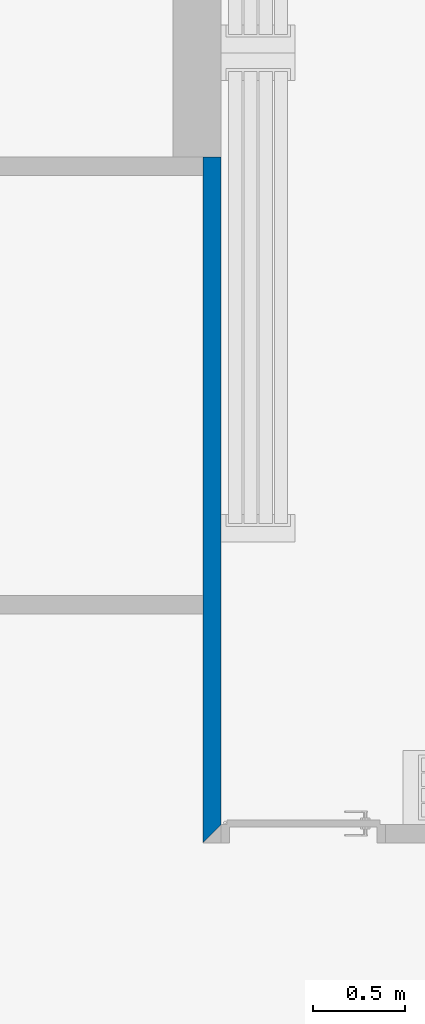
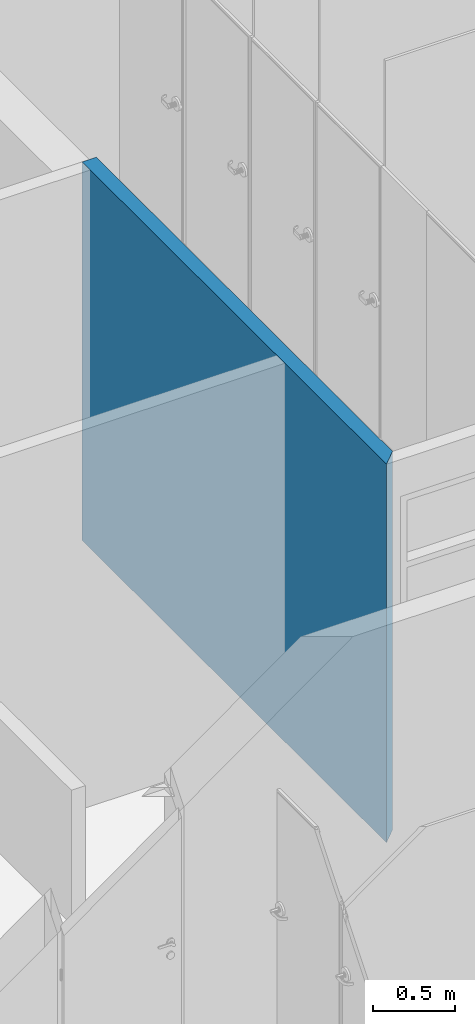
# One storey, part 18 of 45: 1 wall.
"""IFC2X3 building model written with IfcOpenShell, lengths in metres."""

from ifc_helpers import new_model, entity, si_unit, converted_unit, money_unit, direction, frame, origin_with_axes, place, context, subcontext, project, spatial, polyline, outline, extrude, material, layer, layer_set, layer_usage, type_object, element, save


model = new_model("IFC2X3")

# Units and contexts
model_context = context("Model", 3, precision=1e-05, world=origin_with_axes(), true_north=direction((0.0, 1.0)))
body_context = subcontext(model_context, "Body", "Model", "MODEL_VIEW")
ifc_project = project(units=[si_unit("LENGTHUNIT", "METRE"), si_unit("AREAUNIT", "SQUARE_METRE"), si_unit("VOLUMEUNIT", "CUBIC_METRE"), converted_unit("PLANEANGLEUNIT", "DEGREE", entity("IfcPlaneAngleMeasure", 0.0174532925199), si_unit("PLANEANGLEUNIT", "RADIAN"), dimensions=[0, 0, 0, 0, 0, 0, 0]), si_unit("SOLIDANGLEUNIT", "STERADIAN"), money_unit("EUR"), converted_unit("TIMEUNIT", "Year", entity("IfcTimeMeasure", 31556926.0), si_unit("TIMEUNIT", "SECOND"), dimensions=[0, 0, 0, 0, 0, 0, 0]), si_unit("MASSUNIT", "GRAM"), si_unit("THERMODYNAMICTEMPERATUREUNIT", "DEGREE_CELSIUS"), si_unit("LUMINOUSINTENSITYUNIT", "LUMEN")], contexts=[model_context])

# Site, building, storey
site_placement = place(None, origin_with_axes())
site = spatial("IfcSite", under=ifc_project, at=site_placement, Name="Site", CompositionType="ELEMENT")
building_placement = place(site_placement, origin_with_axes())
building = spatial("IfcBuilding", under=site, at=building_placement, Name="Bâtiment", CompositionType="ELEMENT")
storey_placement = place(building_placement, origin_with_axes())
storey = spatial("IfcBuildingStorey", under=building, at=storey_placement, Name="NIVEAU BAS GYMNASE", CompositionType="ELEMENT", Elevation=0.0)

# Wall
ifc_material = material(Name="Hachure solide* 3962059836")
ifc_layer = layer(ifc_material, 0.1, ventilated="UNKNOWN")
ifc_layer_set = layer_set([ifc_layer], Name="Hachure solide* 3962059836 0.1")
ifc_layer_usage = layer_usage(ifc_layer_set, "AXIS2", "POSITIVE", -0.1)
wall_type = type_object("IfcWallType", Name="Hachure solide* 3962059836 100", PredefinedType="NOTDEFINED")
wall_placement = place(storey_placement, frame((55.733457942, 18.2839579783, 0.0), z_axis=(0.0, 0.0, 1.0), x_axis=(0.0, -1.0, 0.0)))
element("IfcWallStandardCase", 1, at=wall_placement, inside=storey, type_object=wall_type, material=ifc_layer_usage, Name="Mur-007", context=body_context, shape_type="SweptSolid", body=[
    extrude(outline(polyline([(0.0, -0.1), (3.7151422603, -0.1), (3.6151422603, 0.0), (0.0, 0.0), (0.0, -0.1)])), origin_with_axes(), (0.0, 0.0, 1.0), 2.82),
])

save(model, "model.ifc")
